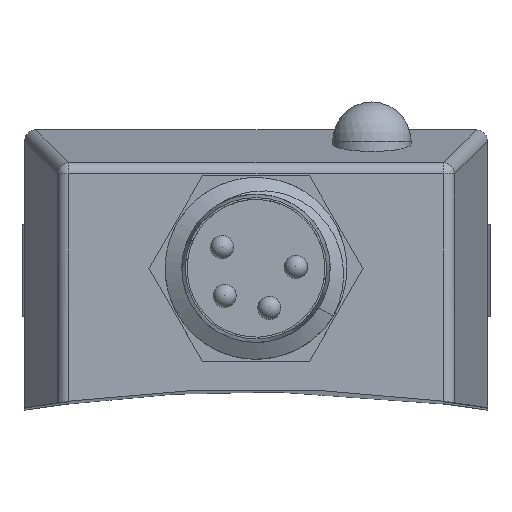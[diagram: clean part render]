
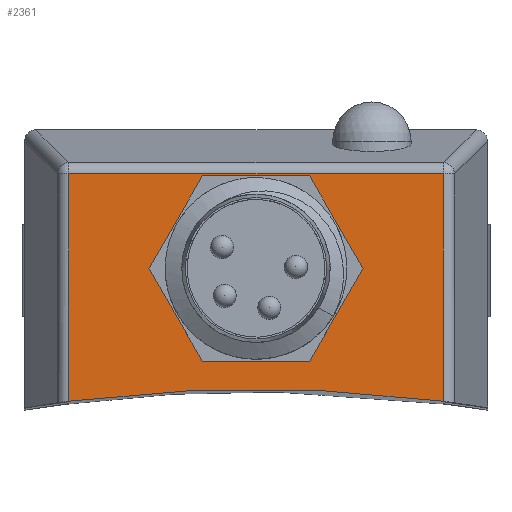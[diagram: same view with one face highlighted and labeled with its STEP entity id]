
A CAD part, top view. The second image highlights one B-rep face of the part: STEP entity #2361.
In plain terms, the highlighted planar face has unit normal (0, 0, 1).
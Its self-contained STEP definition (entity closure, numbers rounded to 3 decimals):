
#113=FACE_BOUND('',#472,.T.);
#153=CIRCLE('',#2536,62.5);
#232=PLANE('',#2535);
#322=FACE_OUTER_BOUND('',#471,.T.);
#471=EDGE_LOOP('',(#1771,#1772,#1773,#1774));
#472=EDGE_LOOP('',(#1775,#1776,#1777,#1778,#1779,#1780));
#622=LINE('',#4364,#829);
#655=LINE('',#4473,#862);
#656=LINE('',#4477,#863);
#657=LINE('',#4480,#864);
#658=LINE('',#4482,#865);
#659=LINE('',#4484,#866);
#660=LINE('',#4486,#867);
#661=LINE('',#4488,#868);
#662=LINE('',#4489,#869);
#829=VECTOR('',#2799,16.17);
#862=VECTOR('',#2898,9.81);
#863=VECTOR('',#2903,9.81);
#864=VECTOR('',#2904,10.);
#865=VECTOR('',#2905,10.);
#866=VECTOR('',#2906,10.);
#867=VECTOR('',#2907,10.);
#868=VECTOR('',#2908,10.);
#869=VECTOR('',#2909,10.);
#1057=VERTEX_POINT('',#4305);
#1075=VERTEX_POINT('',#4363);
#1104=VERTEX_POINT('',#4462);
#1105=VERTEX_POINT('',#4475);
#1106=VERTEX_POINT('',#4478);
#1107=VERTEX_POINT('',#4479);
#1108=VERTEX_POINT('',#4481);
#1109=VERTEX_POINT('',#4483);
#1110=VERTEX_POINT('',#4485);
#1111=VERTEX_POINT('',#4487);
#1312=EDGE_CURVE('',#1057,#1075,#622,.T.);
#1361=EDGE_CURVE('',#1104,#1057,#655,.T.);
#1362=EDGE_CURVE('',#1104,#1105,#153,.T.);
#1363=EDGE_CURVE('',#1075,#1105,#656,.T.);
#1364=EDGE_CURVE('',#1106,#1107,#657,.T.);
#1365=EDGE_CURVE('',#1107,#1108,#658,.T.);
#1366=EDGE_CURVE('',#1108,#1109,#659,.T.);
#1367=EDGE_CURVE('',#1109,#1110,#660,.T.);
#1368=EDGE_CURVE('',#1110,#1111,#661,.T.);
#1369=EDGE_CURVE('',#1111,#1106,#662,.T.);
#1771=ORIENTED_EDGE('',*,*,#1361,.F.);
#1772=ORIENTED_EDGE('',*,*,#1362,.T.);
#1773=ORIENTED_EDGE('',*,*,#1363,.F.);
#1774=ORIENTED_EDGE('',*,*,#1312,.F.);
#1775=ORIENTED_EDGE('',*,*,#1364,.T.);
#1776=ORIENTED_EDGE('',*,*,#1365,.T.);
#1777=ORIENTED_EDGE('',*,*,#1366,.T.);
#1778=ORIENTED_EDGE('',*,*,#1367,.T.);
#1779=ORIENTED_EDGE('',*,*,#1368,.T.);
#1780=ORIENTED_EDGE('',*,*,#1369,.T.);
#2361=ADVANCED_FACE('',(#322,#113),#232,.T.);
#2535=AXIS2_PLACEMENT_3D('',#4474,#2899,#2900);
#2536=AXIS2_PLACEMENT_3D('',#4476,#2901,#2902);
#2799=DIRECTION('',(1.,0.,0.));
#2898=DIRECTION('',(0.,1.,0.));
#2899=DIRECTION('center_axis',(0.,0.,1.));
#2900=DIRECTION('ref_axis',(-1.,0.,0.));
#2901=DIRECTION('center_axis',(0.,0.,-1.));
#2902=DIRECTION('ref_axis',(-0.129,0.992,0.));
#2903=DIRECTION('',(0.,-1.,0.));
#2904=DIRECTION('',(-1.,0.,0.));
#2905=DIRECTION('',(-0.5,0.866,0.));
#2906=DIRECTION('',(0.5,0.866,0.));
#2907=DIRECTION('',(1.,0.,0.));
#2908=DIRECTION('',(0.5,-0.866,0.));
#2909=DIRECTION('',(-0.5,-0.866,0.));
#4305=CARTESIAN_POINT('',(-3.013,8.901,34.997));
#4363=CARTESIAN_POINT('',(13.157,8.901,34.997));
#4364=CARTESIAN_POINT('',(-3.013,8.901,34.997));
#4462=CARTESIAN_POINT('',(-3.013,-0.909,34.997));
#4473=CARTESIAN_POINT('',(-3.013,-0.909,34.997));
#4474=CARTESIAN_POINT('Origin',(5.072,-1.184,34.997));
#4475=CARTESIAN_POINT('',(13.157,-0.909,34.997));
#4476=CARTESIAN_POINT('Origin',(5.072,-62.884,34.997));
#4477=CARTESIAN_POINT('',(13.157,8.901,34.997));
#4478=CARTESIAN_POINT('',(7.381,0.816,34.997));
#4479=CARTESIAN_POINT('',(2.762,0.816,34.997));
#4480=CARTESIAN_POINT('',(3.917,0.816,34.997));
#4481=CARTESIAN_POINT('',(0.453,4.816,34.997));
#4482=CARTESIAN_POINT('',(2.329,1.566,34.997));
#4483=CARTESIAN_POINT('',(2.762,8.816,34.997));
#4484=CARTESIAN_POINT('',(0.886,5.566,34.997));
#4485=CARTESIAN_POINT('',(7.381,8.816,34.997));
#4486=CARTESIAN_POINT('',(6.226,8.816,34.997));
#4487=CARTESIAN_POINT('',(9.69,4.816,34.997));
#4488=CARTESIAN_POINT('',(10.412,3.566,34.997));
#4489=CARTESIAN_POINT('',(6.659,-0.434,34.997));
